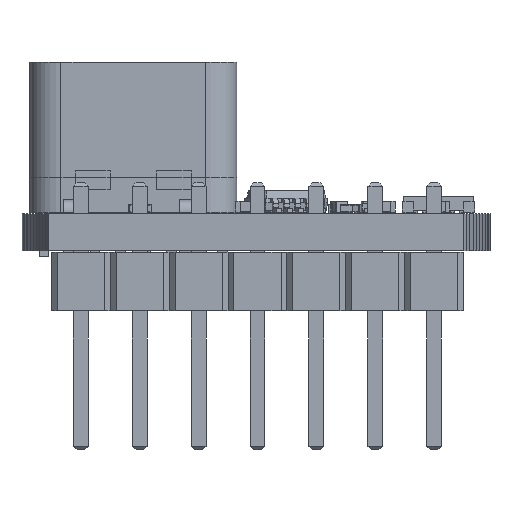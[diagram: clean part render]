
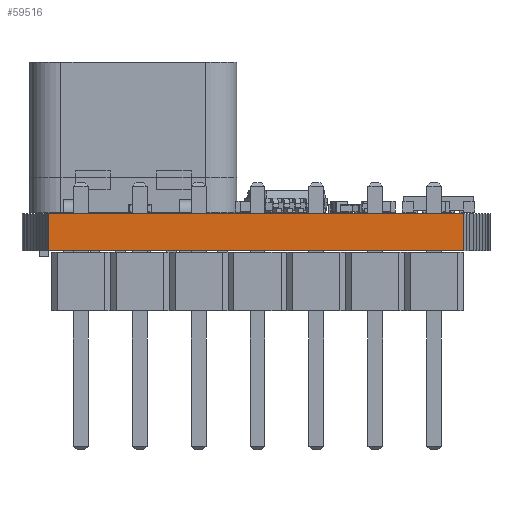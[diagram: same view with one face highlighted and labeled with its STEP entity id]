
A CAD part, front view. The second image highlights one B-rep face of the part: STEP entity #59516.
In plain terms, the highlighted planar face has unit normal (0, -1, 0).
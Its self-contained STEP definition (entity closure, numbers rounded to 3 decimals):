
#53416 = PLANE('',#53417);
#53417 = AXIS2_PLACEMENT_3D('',#53418,#53419,#53420);
#53418 = CARTESIAN_POINT('',(140.856,-106.528,1.6));
#53419 = DIRECTION('',(0.,0.,1.));
#53420 = DIRECTION('',(1.,0.,-0.));
#53470 = PLANE('',#53471);
#53471 = AXIS2_PLACEMENT_3D('',#53472,#53473,#53474);
#53472 = CARTESIAN_POINT('',(140.856,-106.528,0.));
#53473 = DIRECTION('',(0.,0.,1.));
#53474 = DIRECTION('',(1.,0.,-0.));
#54195 = VERTEX_POINT('',#54196);
#54196 = CARTESIAN_POINT('',(131.902,-111.354,0.));
#54210 = PLANE('',#54211);
#54211 = AXIS2_PLACEMENT_3D('',#54212,#54213,#54214);
#54212 = CARTESIAN_POINT('',(131.775,-111.1,0.));
#54213 = DIRECTION('',(0.894,0.447,-0.));
#54214 = DIRECTION('',(0.447,-0.894,0.));
#54222 = EDGE_CURVE('',#54195,#54223,#54225,.T.);
#54223 = VERTEX_POINT('',#54224);
#54224 = CARTESIAN_POINT('',(149.809,-111.354,0.));
#54225 = SURFACE_CURVE('',#54226,(#54230,#54237),.PCURVE_S1.);
#54226 = LINE('',#54227,#54228);
#54227 = CARTESIAN_POINT('',(131.902,-111.354,0.));
#54228 = VECTOR('',#54229,1.);
#54229 = DIRECTION('',(1.,0.,0.));
#54230 = PCURVE('',#53470,#54231);
#54231 = DEFINITIONAL_REPRESENTATION('',(#54232),#54236);
#54232 = LINE('',#54233,#54234);
#54233 = CARTESIAN_POINT('',(-8.954,-4.826));
#54234 = VECTOR('',#54235,1.);
#54235 = DIRECTION('',(1.,0.));
#54236 = ( GEOMETRIC_REPRESENTATION_CONTEXT(2) 
PARAMETRIC_REPRESENTATION_CONTEXT() REPRESENTATION_CONTEXT('2D SPACE',''
  ) );
#54237 = PCURVE('',#54238,#54243);
#54238 = PLANE('',#54239);
#54239 = AXIS2_PLACEMENT_3D('',#54240,#54241,#54242);
#54240 = CARTESIAN_POINT('',(131.902,-111.354,0.));
#54241 = DIRECTION('',(0.,1.,0.));
#54242 = DIRECTION('',(1.,0.,0.));
#54243 = DEFINITIONAL_REPRESENTATION('',(#54244),#54248);
#54244 = LINE('',#54245,#54246);
#54245 = CARTESIAN_POINT('',(0.,0.));
#54246 = VECTOR('',#54247,1.);
#54247 = DIRECTION('',(1.,0.));
#54248 = ( GEOMETRIC_REPRESENTATION_CONTEXT(2) 
PARAMETRIC_REPRESENTATION_CONTEXT() REPRESENTATION_CONTEXT('2D SPACE',''
  ) );
#54266 = PLANE('',#54267);
#54267 = AXIS2_PLACEMENT_3D('',#54268,#54269,#54270);
#54268 = CARTESIAN_POINT('',(149.809,-111.354,0.));
#54269 = DIRECTION('',(-0.894,0.447,0.));
#54270 = DIRECTION('',(0.447,0.894,0.));
#56692 = VERTEX_POINT('',#56693);
#56693 = CARTESIAN_POINT('',(131.902,-111.354,1.6));
#56714 = EDGE_CURVE('',#56692,#56715,#56717,.T.);
#56715 = VERTEX_POINT('',#56716);
#56716 = CARTESIAN_POINT('',(149.809,-111.354,1.6));
#56717 = SURFACE_CURVE('',#56718,(#56722,#56729),.PCURVE_S1.);
#56718 = LINE('',#56719,#56720);
#56719 = CARTESIAN_POINT('',(131.902,-111.354,1.6));
#56720 = VECTOR('',#56721,1.);
#56721 = DIRECTION('',(1.,0.,0.));
#56722 = PCURVE('',#53416,#56723);
#56723 = DEFINITIONAL_REPRESENTATION('',(#56724),#56728);
#56724 = LINE('',#56725,#56726);
#56725 = CARTESIAN_POINT('',(-8.954,-4.826));
#56726 = VECTOR('',#56727,1.);
#56727 = DIRECTION('',(1.,0.));
#56728 = ( GEOMETRIC_REPRESENTATION_CONTEXT(2) 
PARAMETRIC_REPRESENTATION_CONTEXT() REPRESENTATION_CONTEXT('2D SPACE',''
  ) );
#56729 = PCURVE('',#54238,#56730);
#56730 = DEFINITIONAL_REPRESENTATION('',(#56731),#56735);
#56731 = LINE('',#56732,#56733);
#56732 = CARTESIAN_POINT('',(0.,-1.6));
#56733 = VECTOR('',#56734,1.);
#56734 = DIRECTION('',(1.,0.));
#56735 = ( GEOMETRIC_REPRESENTATION_CONTEXT(2) 
PARAMETRIC_REPRESENTATION_CONTEXT() REPRESENTATION_CONTEXT('2D SPACE',''
  ) );
#59466 = EDGE_CURVE('',#54223,#56715,#59467,.T.);
#59467 = SURFACE_CURVE('',#59468,(#59472,#59479),.PCURVE_S1.);
#59468 = LINE('',#59469,#59470);
#59469 = CARTESIAN_POINT('',(149.809,-111.354,0.));
#59470 = VECTOR('',#59471,1.);
#59471 = DIRECTION('',(0.,0.,1.));
#59472 = PCURVE('',#54266,#59473);
#59473 = DEFINITIONAL_REPRESENTATION('',(#59474),#59478);
#59474 = LINE('',#59475,#59476);
#59475 = CARTESIAN_POINT('',(0.,0.));
#59476 = VECTOR('',#59477,1.);
#59477 = DIRECTION('',(0.,-1.));
#59478 = ( GEOMETRIC_REPRESENTATION_CONTEXT(2) 
PARAMETRIC_REPRESENTATION_CONTEXT() REPRESENTATION_CONTEXT('2D SPACE',''
  ) );
#59479 = PCURVE('',#54238,#59480);
#59480 = DEFINITIONAL_REPRESENTATION('',(#59481),#59485);
#59481 = LINE('',#59482,#59483);
#59482 = CARTESIAN_POINT('',(17.907,0.));
#59483 = VECTOR('',#59484,1.);
#59484 = DIRECTION('',(0.,-1.));
#59485 = ( GEOMETRIC_REPRESENTATION_CONTEXT(2) 
PARAMETRIC_REPRESENTATION_CONTEXT() REPRESENTATION_CONTEXT('2D SPACE',''
  ) );
#59495 = EDGE_CURVE('',#54195,#56692,#59496,.T.);
#59496 = SURFACE_CURVE('',#59497,(#59501,#59508),.PCURVE_S1.);
#59497 = LINE('',#59498,#59499);
#59498 = CARTESIAN_POINT('',(131.902,-111.354,0.));
#59499 = VECTOR('',#59500,1.);
#59500 = DIRECTION('',(0.,0.,1.));
#59501 = PCURVE('',#54210,#59502);
#59502 = DEFINITIONAL_REPRESENTATION('',(#59503),#59507);
#59503 = LINE('',#59504,#59505);
#59504 = CARTESIAN_POINT('',(0.284,0.));
#59505 = VECTOR('',#59506,1.);
#59506 = DIRECTION('',(0.,-1.));
#59507 = ( GEOMETRIC_REPRESENTATION_CONTEXT(2) 
PARAMETRIC_REPRESENTATION_CONTEXT() REPRESENTATION_CONTEXT('2D SPACE',''
  ) );
#59508 = PCURVE('',#54238,#59509);
#59509 = DEFINITIONAL_REPRESENTATION('',(#59510),#59514);
#59510 = LINE('',#59511,#59512);
#59511 = CARTESIAN_POINT('',(0.,0.));
#59512 = VECTOR('',#59513,1.);
#59513 = DIRECTION('',(0.,-1.));
#59514 = ( GEOMETRIC_REPRESENTATION_CONTEXT(2) 
PARAMETRIC_REPRESENTATION_CONTEXT() REPRESENTATION_CONTEXT('2D SPACE',''
  ) );
#59516 = ADVANCED_FACE('',(#59517),#54238,.F.);
#59517 = FACE_BOUND('',#59518,.F.);
#59518 = EDGE_LOOP('',(#59519,#59520,#59521,#59522));
#59519 = ORIENTED_EDGE('',*,*,#59495,.T.);
#59520 = ORIENTED_EDGE('',*,*,#56714,.T.);
#59521 = ORIENTED_EDGE('',*,*,#59466,.F.);
#59522 = ORIENTED_EDGE('',*,*,#54222,.F.);
